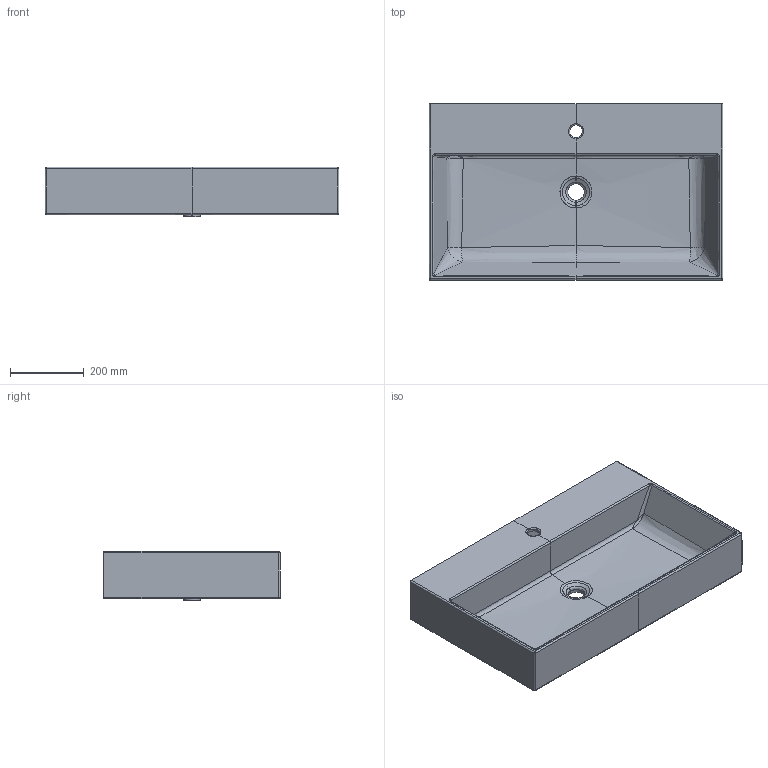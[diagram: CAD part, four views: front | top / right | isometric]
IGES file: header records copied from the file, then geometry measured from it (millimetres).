
Start section: START RECORD GO HERE.
Global section: file name: 6101_80x48.igs; native system: DASSAULT SYSTEMES CATIA V5 R19 - www.3ds.com; preprocessor: CATIA Version 5 Release 19 SP 5 ; author: gioge; organization: LAPTOP-G94B6G74; date: 20200630.123700; units: millimetre
Bounding box: 800 x 480 x 135 mm (x, y, z)
Surface area: 912239.2 mm2 (no closed solid volume)
Topology: 0 solids, 0 shells, 74 faces, 324 edges, 320 vertices
Faces by surface type: bspline 64, plane 10
